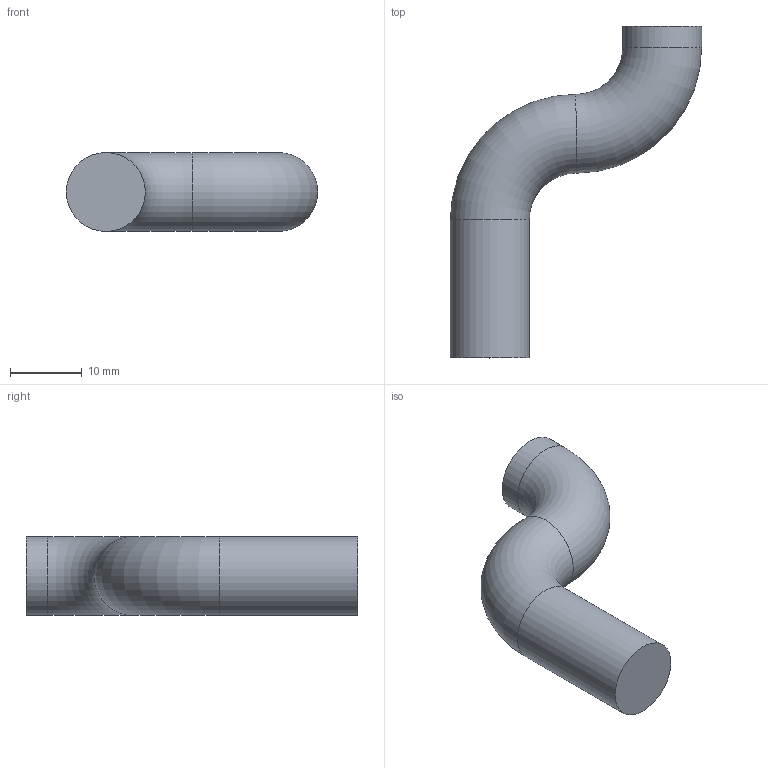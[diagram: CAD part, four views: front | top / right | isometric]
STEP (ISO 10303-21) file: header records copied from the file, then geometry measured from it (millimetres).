
FILE_DESCRIPTION(('Open CASCADE Model'),'2;1');
FILE_NAME('Open CASCADE Shape Model','2026-11-14T16:01:04',('Author'),( 'Open CASCADE'),'Open CASCADE STEP processor 7.9','Open CASCADE 7.9' ,'Unknown');
FILE_SCHEMA(('AUTOMOTIVE_DESIGN { 1 0 10303 214 1 1 1 1 }'));
Length unit declared in the file: millimetre
Products named in the file (1): Open CASCADE STEP translator 7.9 17
Bounding box: 35 x 46.22 x 11 mm (x, y, z)
Volume: 5694.3 mm3; surface area: 2260.7 mm2
Topology: 1 solids, 1 shells, 6 faces, 9 edges, 5 vertices
Faces by surface type: cylinder 2, torus 2, plane 2
Full cylindrical faces by diameter (mm): 11 x2
Entity records: 256 total; most frequent: CARTESIAN_POINT 46, DIRECTION 41, ORIENTED_EDGE 18, PCURVE 18, DEFINITIONAL_REPRESENTATION 18, AXIS2_PLACEMENT_3D 14, LINE 11, VECTOR 11
